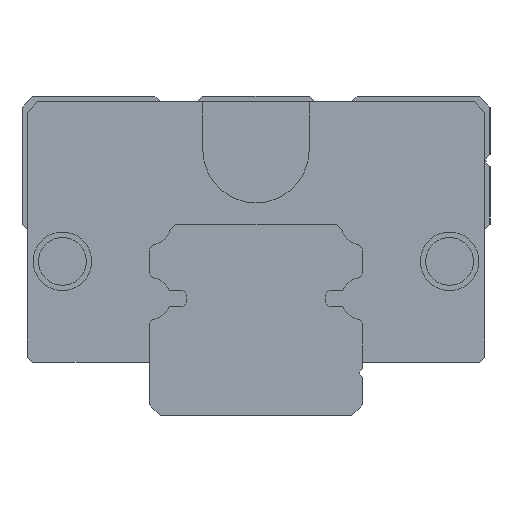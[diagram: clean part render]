
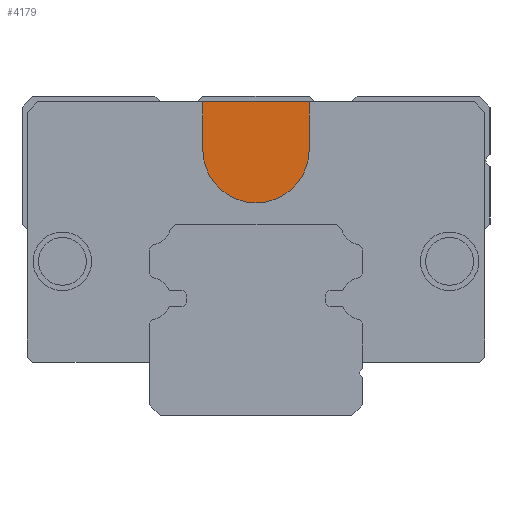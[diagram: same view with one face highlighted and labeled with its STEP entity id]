
A CAD part, left-side view. The second image highlights one B-rep face of the part: STEP entity #4179.
In plain terms, the highlighted planar face has unit normal (-1, 0, 0).
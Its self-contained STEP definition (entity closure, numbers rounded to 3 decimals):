
#4064=CARTESIAN_POINT('',(167.753,-5.0,25.0));
#4065=VERTEX_POINT('',#4064);
#4066=CARTESIAN_POINT('',(167.753,-5.0,29.5));
#4067=VERTEX_POINT('',#4066);
#4068=CARTESIAN_POINT('',(167.753,-5.0,25.0));
#4069=DIRECTION('',(0.0,0.0,1.0));
#4070=VECTOR('',#4069,4.5);
#4071=LINE('',#4068,#4070);
#4072=EDGE_CURVE('',#4065,#4067,#4071,.T.);
#4104=CARTESIAN_POINT('',(167.753,5.,29.5));
#4105=VERTEX_POINT('',#4104);
#4106=CARTESIAN_POINT('',(167.753,5.,25.0));
#4107=VERTEX_POINT('',#4106);
#4108=CARTESIAN_POINT('',(167.753,5.,29.5));
#4109=DIRECTION('',(0.0,0.0,-1.0));
#4110=VECTOR('',#4109,4.5);
#4111=LINE('',#4108,#4110);
#4112=EDGE_CURVE('',#4105,#4107,#4111,.T.);
#4144=CARTESIAN_POINT('',(167.753,0.,25.0));
#4145=DIRECTION('',(-1.0,0.0,0.0));
#4146=DIRECTION('',(0.0,-1.0,0.0));
#4147=AXIS2_PLACEMENT_3D('',#4144,#4145,#4146);
#4148=CIRCLE('',#4147,5.);
#4149=EDGE_CURVE('',#4107,#4065,#4148,.T.);
#4163=CARTESIAN_POINT('',(167.753,0.,25.581));
#4164=DIRECTION('',(1.0,0.0,0.0));
#4165=DIRECTION('',(0.0,0.0,-1.0));
#4166=AXIS2_PLACEMENT_3D('',#4163,#4164,#4165);
#4167=PLANE('',#4166);
#4168=ORIENTED_EDGE('',*,*,#4072,.T.);
#4169=CARTESIAN_POINT('',(167.753,5.,29.5));
#4170=DIRECTION('',(0.0,-1.0,0.0));
#4171=VECTOR('',#4170,10.);
#4172=LINE('',#4169,#4171);
#4173=EDGE_CURVE('',#4105,#4067,#4172,.T.);
#4174=ORIENTED_EDGE('',*,*,#4173,.F.);
#4175=ORIENTED_EDGE('',*,*,#4112,.T.);
#4176=ORIENTED_EDGE('',*,*,#4149,.T.);
#4177=EDGE_LOOP('',(#4168,#4174,#4175,#4176));
#4178=FACE_OUTER_BOUND('',#4177,.T.);
#4179=ADVANCED_FACE('',(#4178),#4167,.F.);
